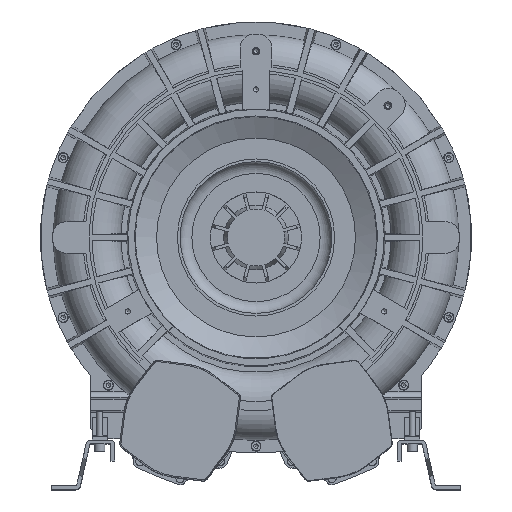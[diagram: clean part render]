
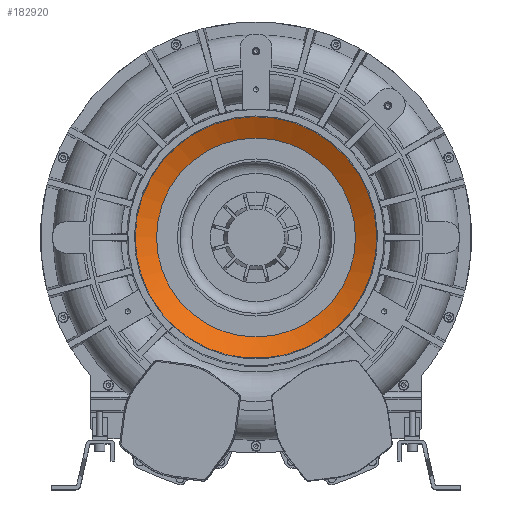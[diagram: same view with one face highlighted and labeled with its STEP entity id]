
A CAD part, top view. The second image highlights one B-rep face of the part: STEP entity #182920.
In plain terms, the highlighted conical face has half-angle 62 degrees and reference radius 131.023 mm.
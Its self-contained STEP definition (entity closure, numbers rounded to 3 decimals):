
#7664 = EDGE_LOOP ( 'NONE', ( #62348 ) ) ;
#12410 = DIRECTION ( 'NONE',  ( 0., 0., 1. ) ) ;
#12763 = EDGE_LOOP ( 'NONE', ( #169730 ) ) ;
#18292 = DIRECTION ( 'NONE',  ( 1., 0., 0. ) ) ;
#23178 = EDGE_CURVE ( 'NONE', #103543, #103543, #81180, .T. ) ;
#38698 = CONICAL_SURFACE ( 'NONE', #213008, 131.023, 1.082 ) ;
#41858 = VERTEX_POINT ( 'NONE', #208287 ) ;
#62348 = ORIENTED_EDGE ( 'NONE', *, *, #226366, .F. ) ;
#69453 = CIRCLE ( 'NONE', #126212, 159.217 ) ;
#81023 = CARTESIAN_POINT ( 'NONE',  ( 0., 0., 196.5 ) ) ;
#81180 = CIRCLE ( 'NONE', #233710, 131.023 ) ;
#90812 = DIRECTION ( 'NONE',  ( -1., 0., 0. ) ) ;
#103543 = VERTEX_POINT ( 'NONE', #166255 ) ;
#126212 = AXIS2_PLACEMENT_3D ( 'NONE', #130396, #213599, #90812 ) ;
#130396 = CARTESIAN_POINT ( 'NONE',  ( 0., 0., 211.491 ) ) ;
#147790 = DIRECTION ( 'NONE',  ( 0., 0., 1. ) ) ;
#166255 = CARTESIAN_POINT ( 'NONE',  ( -131.023, 0., 196.5 ) ) ;
#169730 = ORIENTED_EDGE ( 'NONE', *, *, #23178, .F. ) ;
#177462 = CARTESIAN_POINT ( 'NONE',  ( 0., 0., 196.5 ) ) ;
#182920 = ADVANCED_FACE ( 'NONE', ( #248855, #267965 ), #38698, .F. ) ;
#208287 = CARTESIAN_POINT ( 'NONE',  ( -159.217, 0., 211.491 ) ) ;
#213008 = AXIS2_PLACEMENT_3D ( 'NONE', #81023, #147790, #18292 ) ;
#213599 = DIRECTION ( 'NONE',  ( 0., 0., -1. ) ) ;
#226366 = EDGE_CURVE ( 'NONE', #41858, #41858, #69453, .T. ) ;
#233710 = AXIS2_PLACEMENT_3D ( 'NONE', #177462, #12410, #241617 ) ;
#241617 = DIRECTION ( 'NONE',  ( -1., 0., 0. ) ) ;
#248855 = FACE_OUTER_BOUND ( 'NONE', #7664, .T. ) ;
#267965 = FACE_BOUND ( 'NONE', #12763, .T. ) ;
